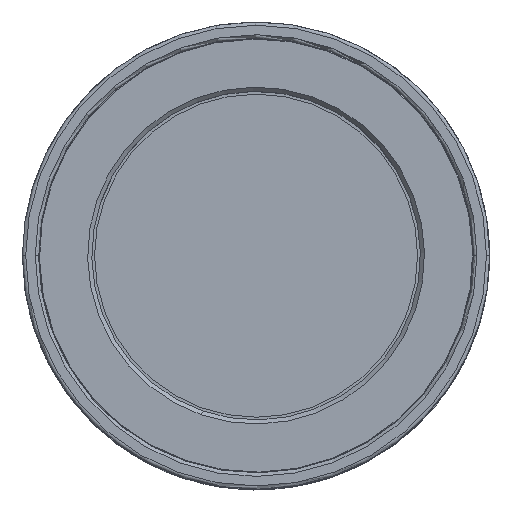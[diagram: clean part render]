
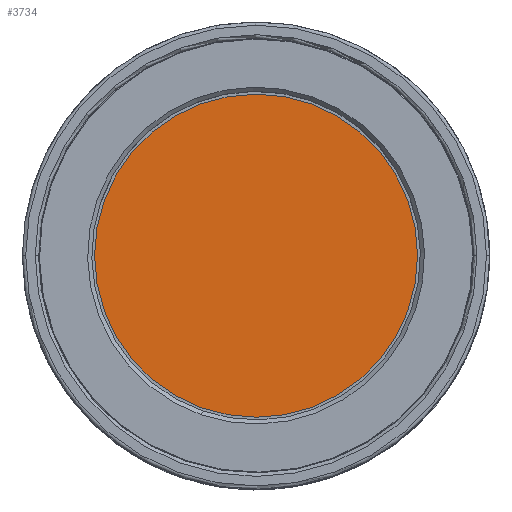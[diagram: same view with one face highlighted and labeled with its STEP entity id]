
A CAD part, top view. The second image highlights one B-rep face of the part: STEP entity #3734.
In plain terms, the highlighted planar face has unit normal (0, 0, 1).
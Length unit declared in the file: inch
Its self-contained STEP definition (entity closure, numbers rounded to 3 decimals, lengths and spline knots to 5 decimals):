
#611 = EDGE_CURVE ( 'NONE', #1899, #5614, #5409, .T. ) ;
#787 = FACE_OUTER_BOUND ( 'NONE', #1184, .T. ) ;
#859 = CARTESIAN_POINT ( 'NONE',  ( 0.82614, 1.78065, 4.17494 ) ) ;
#1184 = EDGE_LOOP ( 'NONE', ( #1398, #3046 ) ) ;
#1398 = ORIENTED_EDGE ( 'NONE', *, *, #4754, .F. ) ;
#1507 = CARTESIAN_POINT ( 'NONE',  ( -0.34386, 1.78065, 4.17494 ) ) ;
#1733 = CARTESIAN_POINT ( 'NONE',  ( 1.99614, 1.78065, 4.17494 ) ) ;
#1816 = CIRCLE ( 'NONE', #6255, 1.17 ) ;
#1855 = DIRECTION ( 'NONE',  ( -1., 0., 0. ) ) ;
#1899 = VERTEX_POINT ( 'NONE', #1733 ) ;
#2075 = CARTESIAN_POINT ( 'NONE',  ( 0.82614, 1.78065, 4.17494 ) ) ;
#2338 = AXIS2_PLACEMENT_3D ( 'NONE', #4561, #3599, #1855 ) ;
#2514 = DIRECTION ( 'NONE',  ( 1., 0., 0. ) ) ;
#3046 = ORIENTED_EDGE ( 'NONE', *, *, #611, .F. ) ;
#3275 = AXIS2_PLACEMENT_3D ( 'NONE', #859, #5219, #2514 ) ;
#3599 = DIRECTION ( 'NONE',  ( 0., 0., -1. ) ) ;
#3734 = ADVANCED_FACE ( 'NONE', ( #787 ), #6189, .T. ) ;
#4354 = DIRECTION ( 'NONE',  ( -1., 0., 0. ) ) ;
#4561 = CARTESIAN_POINT ( 'NONE',  ( 0.82614, 1.78065, 4.17494 ) ) ;
#4754 = EDGE_CURVE ( 'NONE', #5614, #1899, #1816, .T. ) ;
#5219 = DIRECTION ( 'NONE',  ( 0., 0., 1. ) ) ;
#5409 = CIRCLE ( 'NONE', #2338, 1.17 ) ;
#5614 = VERTEX_POINT ( 'NONE', #1507 ) ;
#5881 = DIRECTION ( 'NONE',  ( 0., 0., -1. ) ) ;
#6189 = PLANE ( 'NONE',  #3275 ) ;
#6255 = AXIS2_PLACEMENT_3D ( 'NONE', #2075, #5881, #4354 ) ;
